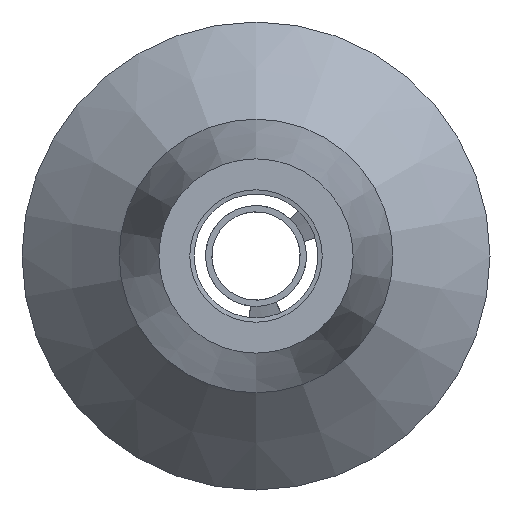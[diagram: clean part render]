
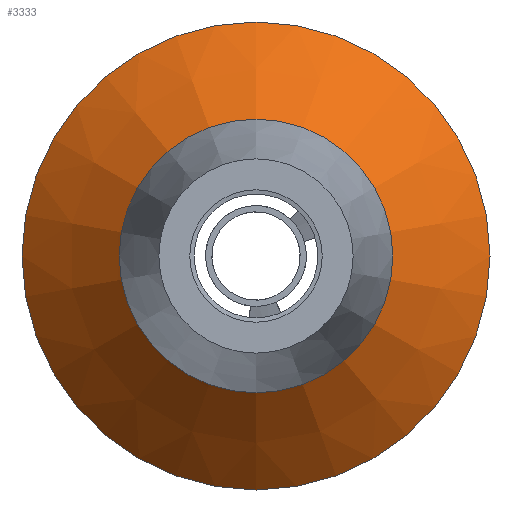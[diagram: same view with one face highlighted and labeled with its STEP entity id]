
A CAD part, left-side view. The second image highlights one B-rep face of the part: STEP entity #3333.
In plain terms, the highlighted conical face has half-angle 45 degrees and reference radius 4.699 mm.
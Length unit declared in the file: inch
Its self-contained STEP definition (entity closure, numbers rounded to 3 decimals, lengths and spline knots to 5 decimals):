
#47=CONICAL_SURFACE('',#3635,0.185,0.785);
#176=CIRCLE('',#3633,0.265);
#177=CIRCLE('',#3634,0.265);
#178=CIRCLE('',#3636,0.105);
#179=CIRCLE('',#3637,0.105);
#612=FACE_OUTER_BOUND('',#806,.T.);
#806=EDGE_LOOP('',(#2972,#2973,#2974,#2975,#2976,#2977));
#1028=LINE('',#7550,#1250);
#1250=VECTOR('',#4295,0.185);
#1566=VERTEX_POINT('',#7540);
#1567=VERTEX_POINT('',#7541);
#1568=VERTEX_POINT('',#7546);
#1569=VERTEX_POINT('',#7547);
#2042=EDGE_CURVE('',#1566,#1567,#176,.T.);
#2043=EDGE_CURVE('',#1567,#1566,#177,.T.);
#2045=EDGE_CURVE('',#1568,#1569,#178,.T.);
#2046=EDGE_CURVE('',#1569,#1568,#179,.T.);
#2047=EDGE_CURVE('',#1569,#1567,#1028,.T.);
#2972=ORIENTED_EDGE('',*,*,#2045,.F.);
#2973=ORIENTED_EDGE('',*,*,#2046,.F.);
#2974=ORIENTED_EDGE('',*,*,#2047,.T.);
#2975=ORIENTED_EDGE('',*,*,#2043,.T.);
#2976=ORIENTED_EDGE('',*,*,#2042,.T.);
#2977=ORIENTED_EDGE('',*,*,#2047,.F.);
#3333=ADVANCED_FACE('',(#612),#47,.T.);
#3633=AXIS2_PLACEMENT_3D('',#7542,#4284,#4285);
#3634=AXIS2_PLACEMENT_3D('',#7543,#4286,#4287);
#3635=AXIS2_PLACEMENT_3D('',#7545,#4289,#4290);
#3636=AXIS2_PLACEMENT_3D('',#7548,#4291,#4292);
#3637=AXIS2_PLACEMENT_3D('',#7549,#4293,#4294);
#4284=DIRECTION('center_axis',(1.,0.,0.));
#4285=DIRECTION('ref_axis',(0.,0.,-1.));
#4286=DIRECTION('center_axis',(1.,0.,0.));
#4287=DIRECTION('ref_axis',(0.,0.,-1.));
#4289=DIRECTION('center_axis',(-1.,0.,0.));
#4290=DIRECTION('ref_axis',(0.,0.,-1.));
#4291=DIRECTION('center_axis',(1.,0.,0.));
#4292=DIRECTION('ref_axis',(0.,0.,-1.));
#4293=DIRECTION('center_axis',(1.,0.,0.));
#4294=DIRECTION('ref_axis',(0.,0.,-1.));
#4295=DIRECTION('',(-0.707,0.,0.707));
#7540=CARTESIAN_POINT('',(0.6,0.,-0.265));
#7541=CARTESIAN_POINT('',(0.6,0.,0.265));
#7542=CARTESIAN_POINT('Origin',(0.6,0.,0.));
#7543=CARTESIAN_POINT('Origin',(0.6,0.,0.));
#7545=CARTESIAN_POINT('Origin',(0.68,0.,0.));
#7546=CARTESIAN_POINT('',(0.76,0.,-0.105));
#7547=CARTESIAN_POINT('',(0.76,0.,0.105));
#7548=CARTESIAN_POINT('Origin',(0.76,0.,0.));
#7549=CARTESIAN_POINT('Origin',(0.76,0.,0.));
#7550=CARTESIAN_POINT('',(0.68,0.,0.185));
